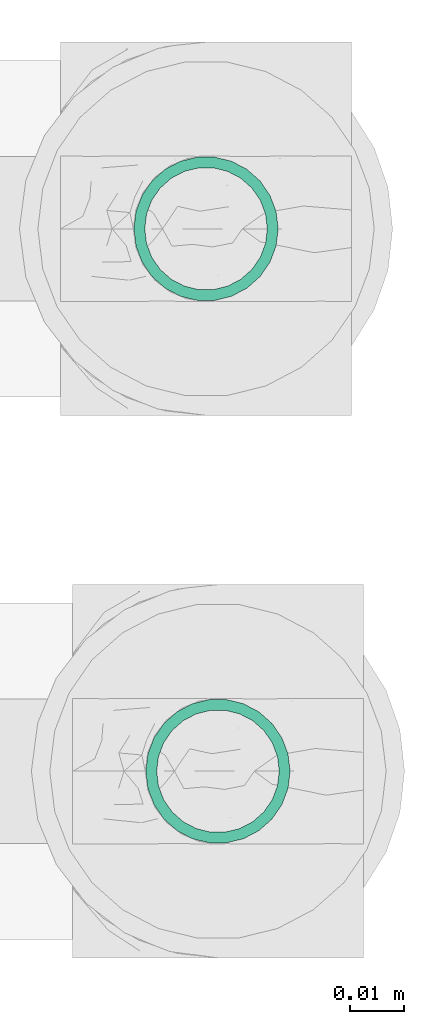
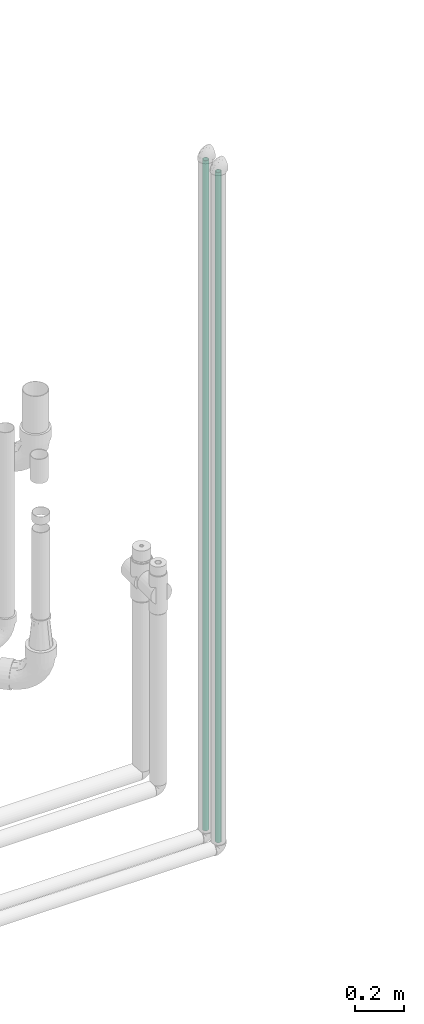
# One storey, part 25 of 83: 2 flow segments.
"""IFC2X3 building model written with IfcOpenShell, lengths in millimetres."""

from ifc_helpers import new_model, entity, si_unit, converted_unit, derived_unit, direction, frame, origin_with_axes, origin_2d_with_axis, place, context, subcontext, project, spatial, hollow_circle, extrude, source, transform, mapped, type_object, element, save


model = new_model("IFC2X3")

# Units and contexts
model_context = context("Model", 3, precision=0.01, world=frame((0.0, 4.29681676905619e-09, 0.0)), true_north=direction((4.01073788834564e-13, 1.0)))
plan_context = context("Plan", 3, precision=0.01, world=frame((0.0, 4.29681676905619e-09, 0.0)), true_north=direction((4.01073788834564e-13, 1.0)))
body_context = subcontext(model_context, "Body", "Model", "MODEL_VIEW")
ifc_project = project(units=[converted_unit("PLANEANGLEUNIT", "DEGREE", entity("IfcPositiveLengthMeasure", 0.0174532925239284), si_unit("PLANEANGLEUNIT", "RADIAN"), dimensions=[0, 0, 0, 0, 0, 0, 0]), si_unit("AREAUNIT", "SQUARE_METRE"), si_unit("LENGTHUNIT", "METRE", prefix="MILLI"), si_unit("MASSUNIT", "GRAM", prefix="KILO"), si_unit("POWERUNIT", "WATT"), si_unit("PRESSUREUNIT", "PASCAL"), si_unit("FORCEUNIT", "NEWTON", prefix="KILO"), si_unit("ELECTRICVOLTAGEUNIT", "VOLT"), si_unit("ELECTRICCURRENTUNIT", "AMPERE"), si_unit("THERMODYNAMICTEMPERATUREUNIT", "DEGREE_CELSIUS"), si_unit("TIMEUNIT", "SECOND"), si_unit("VOLUMEUNIT", "CUBIC_METRE"), derived_unit("LINEARVELOCITYUNIT", [(si_unit("LENGTHUNIT", "METRE"), 1), (si_unit("TIMEUNIT", "SECOND"), -1)]), derived_unit("VOLUMETRICFLOWRATEUNIT", [(si_unit("VOLUMEUNIT", "CUBIC_METRE"), 1), (si_unit("TIMEUNIT", "SECOND"), -1)]), derived_unit("THERMALTRANSMITTANCEUNIT", [(si_unit("POWERUNIT", "WATT"), 1), (si_unit("THERMODYNAMICTEMPERATUREUNIT", "KELVIN"), -1), (si_unit("AREAUNIT", "SQUARE_METRE"), -1)]), derived_unit("SOUNDPRESSUREUNIT", [(si_unit("PRESSUREUNIT", "PASCAL"), 1)])], contexts=[model_context, plan_context])

# Site, building, storey
site_placement = place(None, frame((0.0, -4.29681676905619e-09, 0.0), z_axis=(0.0, 0.0, 1.0), x_axis=(1.0, 0.0, 0.0)))
site = spatial("IfcSite", under=ifc_project, at=site_placement, Name="ENGM", CompositionType="ELEMENT")
building_placement = place(site_placement, frame((0.0, 4.29681676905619e-09, 0.0), z_axis=(0.0, 0.0, 1.0), x_axis=(1.0, 0.0, 0.0)))
building = spatial("IfcBuilding", under=site, at=building_placement, Name="TI", CompositionType="ELEMENT")
storey_placement = place(building_placement, frame((0.0, 0.0, 204000.0), z_axis=(0.0, 0.0, 1.0), x_axis=(1.0, 0.0, 0.0)))
storey = spatial("IfcBuildingStorey", under=building, at=storey_placement, Name="Nivå D", CompositionType="ELEMENT", Elevation=204000.0)

# Flow segments
pipe_segment_type = type_object("IfcPipeSegmentType", Name="Stålrør normaltykke", PredefinedType="RIGIDSEGMENT")
shared_shape = source(origin_with_axes(), body_context, "Body", "SweptSolid", [
    extrude(hollow_circle(Radius=13.3, WallThickness=2.0, at=origin_2d_with_axis()), frame((0.0, 0.0, 0.0), z_axis=(1.0, 0.0, 0.0), x_axis=(0.0, 1.0, 0.0)), (0.0, 0.0, 1.0), 3366.4),
])
for number, where, z_axis, x_axis in (
    (1, (609131.9743, 691141.97914, 6246.79999999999), (0.0, 1.0, 0.0), (0.0, 0.0, 1.0)),
    (2, (609129.7743, 691241.97914, 6246.80011000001), (0.0, -1.0, 0.0), (0.0, 0.0, 1.0)),
):
    element("IfcFlowSegment", number, at=place(storey_placement, frame(where, z_axis=z_axis, x_axis=x_axis)), inside=storey, type_object=pipe_segment_type, Name="Stålrør normaltykke", context=body_context, shape_type="MappedRepresentation", body=[
        mapped(shared_shape, transform((0.0, 0.0, 0.0), scale=1.0)),
    ])

save(model, "model.ifc")
